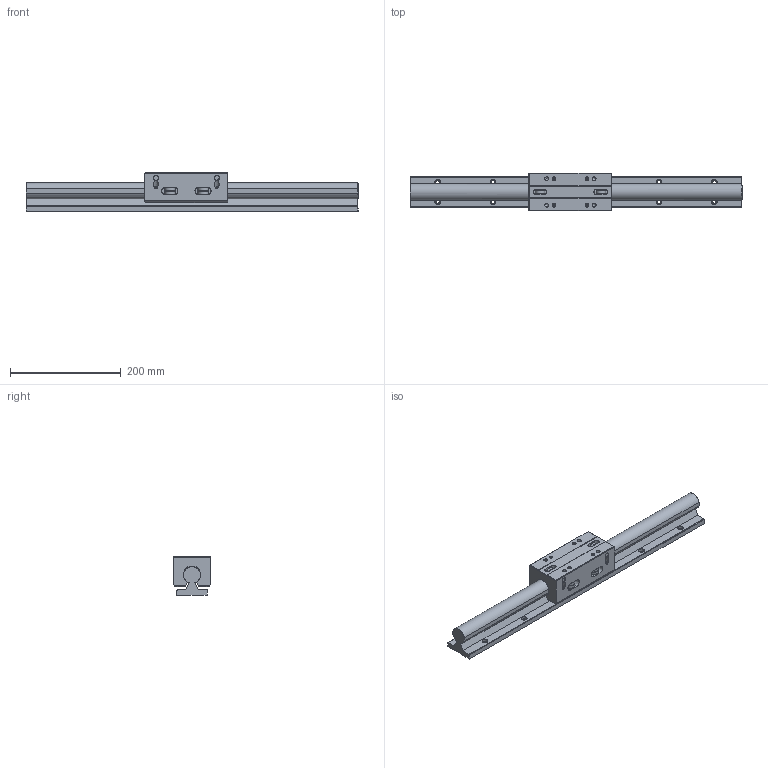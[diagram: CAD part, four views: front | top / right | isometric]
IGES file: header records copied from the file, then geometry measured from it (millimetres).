
Global section: file name: No Iges File Name specified; native system: AutoDesk Inventor R10; preprocessor: AutoDesk Inventor Iges Exporter R10; author: No Author specified; organization: No Organization specified; date: 20101222.155610; units: millimetre
Bounding box: 600 x 68 x 70 mm (x, y, z)
Surface area: 208670.8 mm2 (no closed solid volume)
Topology: 0 solids, 0 shells, 528 faces, 3996 edges, 3968 vertices
Faces by surface type: bspline 528
